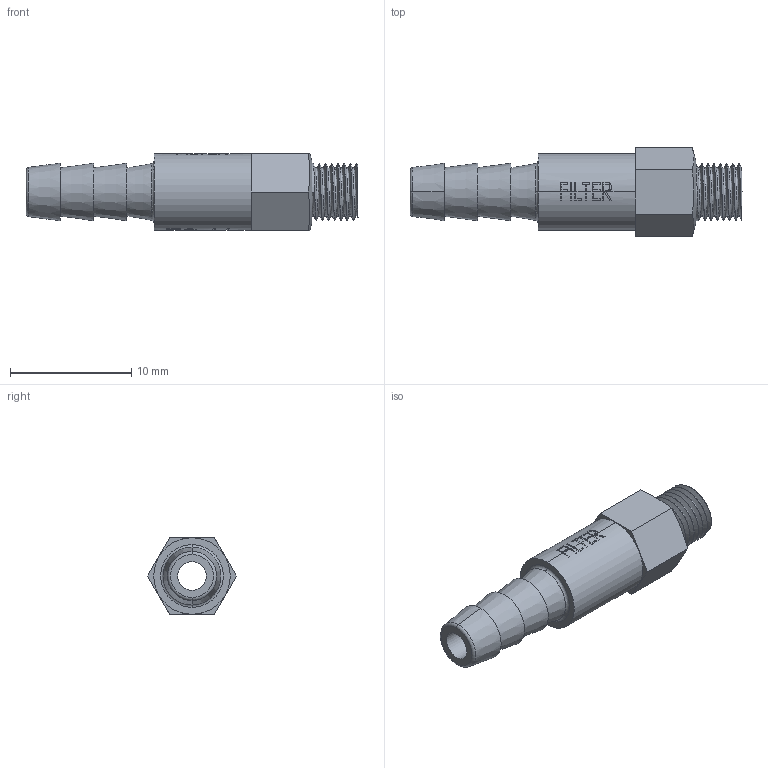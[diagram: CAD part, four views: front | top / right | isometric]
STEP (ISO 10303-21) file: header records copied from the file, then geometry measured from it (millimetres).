
FILE_DESCRIPTION(/* description */ ('SolidWorks IGES file using NURBS representation for surfaces '),/* implementation_level */ '2;1');
FILE_NAME(/* name */ 'K:\Normteile INVENTOR\Air-Logic\Filters\F-960-73-B85.IGS.ipt.stp',/* time_stamp */ '2020-05-27T10:40:08+02:00',/* author */ ('amarsh'),/* organization */ (''),/* preprocessor_version */ 'ST-DEVELOPER v18',/* originating_system */ 'Autodesk Inventor 2020',/* authorisation */ '');
FILE_SCHEMA (('AUTOMOTIVE_DESIGN { 1 0 10303 214 3 1 1 }'));
Length unit declared in the file: millimetre
Products named in the file (1): F-960-73-B85.IGS
Bounding box: 27.38 x 7.33 x 6.35 mm (x, y, z)
Volume: 515.8 mm3; surface area: 784.2 mm2
Topology: 1 solids, 1 shells, 150 faces, 426 edges, 285 vertices
Faces by surface type: plane 70, bspline 40, cylinder 30, cone 6, torus 4
Full cylindrical faces by diameter (mm): 2.36 x1, 4.75 x7
Entity records: 9478 total; most frequent: CARTESIAN_POINT 5568, ORIENTED_EDGE 852, DIRECTION 669, EDGE_CURVE 426, VERTEX_POINT 285, AXIS2_PLACEMENT_3D 232, LINE 205, VECTOR 205
